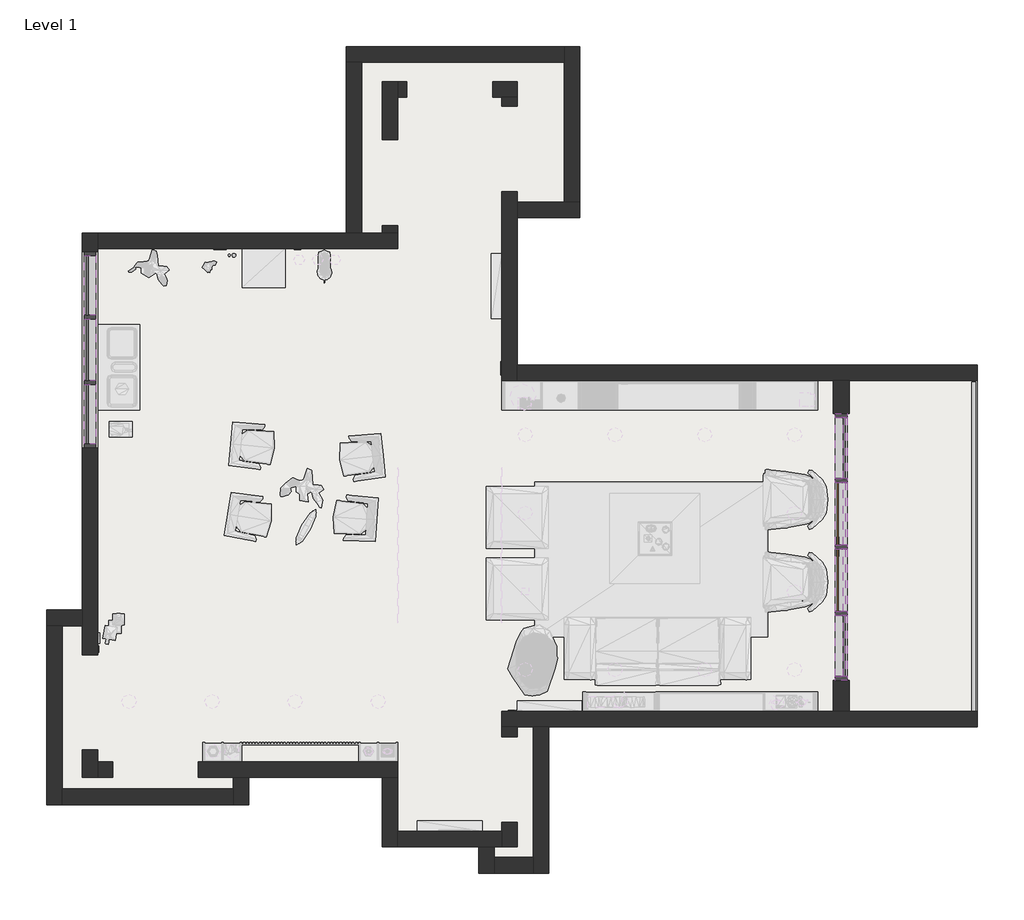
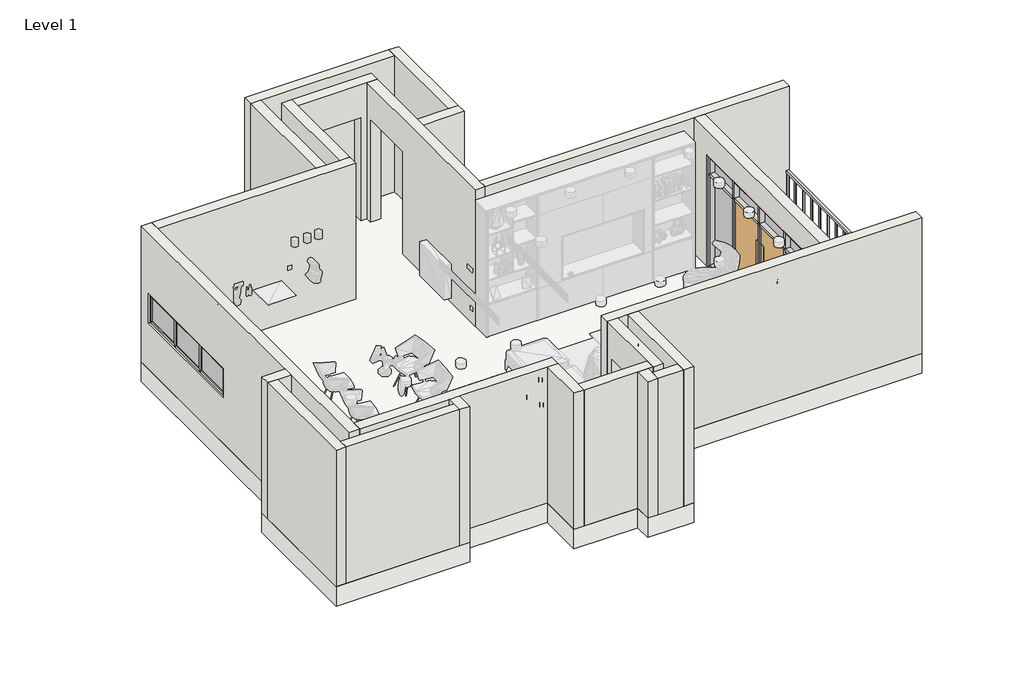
# One storey, part 1 of 2: 32 members, 23 walls, 9 plates, 2 doors, 1 railing, 1 slab.
"""IFC4 building model written with IfcOpenShell, lengths in millimetres."""

from ifc_helpers import new_model, si_unit, frame, origin, origin_with_axes, place, context, project, spatial, polyline, outline, extrude, faceted_brep, transform, mapped, element, save
from components import sgl_glass_3_sgl_glass_3_026d372b, sgl_glass_3_sgl_glass_3_7d3c2ecc, rectangular_mullion_50_x_150mm_68b3818a, rectangular_mullion_50_x_150mm_64d38db8, rectangular_mullion_50_x_150mm_0782772d, rectangular_mullion_50_x_150mm_636d1770, rectangular_mullion_50_x_150mm_7622f7aa, rectangular_mullion_50_x_150mm_658aca72, rectangular_mullion_50_x_150mm_52b77c49, rectangular_mullion_50_x_150mm_f1d7dc28, rectangular_mullion_50_x_150mm_77adab58, rectangular_mullion_50_x_150mm_08303c98, rectangular_mullion_50_x_150mm_9364a57c, rectangular_mullion_50_x_150mm_e11a3e7b, system_panel_glazed_0ca214f6, system_panel_glazed_e800b1ad, system_panel_glazed_3b1a006d, system_panel_glazed_6420dd34, system_panel_glazed_474c7c4c

model = new_model("IFC4")

# Units and contexts
model_context = context("Model", 3, world=origin())
ifc_project = project(units=[si_unit("LENGTHUNIT", "METRE", prefix="MILLI")], contexts=[model_context])

# Site, building, storey
site = spatial("IfcSite", under=ifc_project)
building = spatial("IfcBuilding", under=site)
storey = spatial("IfcBuildingStorey", under=building, Name="Level 1", Elevation=0.0)

# Doors
placement = place(None, origin())
sgl_glass_3_sgl_glass_3_shape = sgl_glass_3_sgl_glass_3_026d372b(model_context)
element("IfcDoor", 1, ObjectType="Sgl Glass (3) : Sgl Glass (3)", at=placement, inside=storey, context=model_context, shape_type="MappedRepresentation", body=[
    mapped(sgl_glass_3_sgl_glass_3_shape, transform((278.5468164, -160.0345242, 50.0), x_axis=(0.0, 1.0, 0.0), y_axis=(-1.0, 0.0, 0.0), z_axis=(0.0, 0.0, 1.0))),
])
sgl_glass_3_sgl_glass_3_2_shape = sgl_glass_3_sgl_glass_3_7d3c2ecc(model_context)
element("IfcDoor", 2, ObjectType="Sgl Glass (3) : Sgl Glass (3)", at=placement, inside=storey, context=model_context, shape_type="MappedRepresentation", body=[
    mapped(sgl_glass_3_sgl_glass_3_2_shape, transform((278.5468164, -1016.284524, 50.0), x_axis=(0.0, -1.0, 0.0), y_axis=(1.0, 0.0, 0.0), z_axis=(0.0, 0.0, 1.0))),
])

# Members
rectangular_mullion_50_x_150mm_shape = rectangular_mullion_50_x_150mm_68b3818a(model_context)
element("IfcMember", 3, ObjectType="Rectangular Mullion : 50 x 150mm", at=placement, inside=storey, context=model_context, shape_type="MappedRepresentation", body=[
    mapped(rectangular_mullion_50_x_150mm_shape, transform((-9371.4531836, 1526.0071427, 950.0), x_axis=(0.0, 1.0, 0.0), y_axis=(1.0, 0.0, 0.0), z_axis=(0.0, 0.0, -1.0))),
])
element("IfcMember", 4, ObjectType="Rectangular Mullion : 50 x 150mm", at=placement, inside=storey, context=model_context, shape_type="MappedRepresentation", body=[
    mapped(rectangular_mullion_50_x_150mm_shape, transform((-9371.4531836, 2367.6738091, 950.0), x_axis=(0.0, 1.0, 0.0), y_axis=(1.0, 0.0, 0.0), z_axis=(0.0, 0.0, -1.0))),
])
rectangular_mullion_50_x_150mm_2_shape = rectangular_mullion_50_x_150mm_64d38db8(model_context)
element("IfcMember", 5, ObjectType="Rectangular Mullion : 50 x 150mm", at=placement, inside=storey, context=model_context, shape_type="MappedRepresentation", body=[
    mapped(rectangular_mullion_50_x_150mm_2_shape, transform((-9371.4531836, 3209.3404759, 950.0), x_axis=(0.0, 1.0, 0.0), y_axis=(1.0, 0.0, 0.0), z_axis=(0.0, 0.0, -1.0))),
])
element("IfcMember", 6, ObjectType="Rectangular Mullion : 50 x 150mm", at=placement, inside=storey, context=model_context, shape_type="MappedRepresentation", body=[
    mapped(rectangular_mullion_50_x_150mm_2_shape, transform((-9371.4531836, 684.3404759, 1550.0), x_axis=(0.0, -1.0, 0.0), y_axis=(1.0, 0.0, 0.0), z_axis=(0.0, 0.0, 1.0))),
])
rectangular_mullion_50_x_150mm_3_shape = rectangular_mullion_50_x_150mm_0782772d(model_context)
element("IfcMember", 7, ObjectType="Rectangular Mullion : 50 x 150mm", at=placement, inside=storey, context=model_context, shape_type="MappedRepresentation", body=[
    mapped(rectangular_mullion_50_x_150mm_3_shape, transform((-9371.4531836, 734.3404759, 950.0), x_axis=(0.0, 0.0, -1.0), y_axis=(1.0, 0.0, 0.0), z_axis=(0.0, -1.0, 0.0))),
])
element("IfcMember", 8, ObjectType="Rectangular Mullion : 50 x 150mm", at=placement, inside=storey, context=model_context, shape_type="MappedRepresentation", body=[
    mapped(rectangular_mullion_50_x_150mm_3_shape, transform((-9371.4531836, 2392.6738091, 950.0), x_axis=(0.0, 0.0, -1.0), y_axis=(1.0, 0.0, 0.0), z_axis=(0.0, -1.0, 0.0))),
])
element("IfcMember", 9, ObjectType="Rectangular Mullion : 50 x 150mm", at=placement, inside=storey, context=model_context, shape_type="MappedRepresentation", body=[
    mapped(rectangular_mullion_50_x_150mm_3_shape, transform((-9371.4531836, 3159.3404759, 1550.0), x_axis=(0.0, 0.0, 1.0), y_axis=(1.0, 0.0, 0.0), z_axis=(0.0, 1.0, 0.0))),
])
element("IfcMember", 10, ObjectType="Rectangular Mullion : 50 x 150mm", at=placement, inside=storey, context=model_context, shape_type="MappedRepresentation", body=[
    mapped(rectangular_mullion_50_x_150mm_3_shape, transform((-9371.4531836, 1501.0071427, 1550.0), x_axis=(0.0, 0.0, 1.0), y_axis=(1.0, 0.0, 0.0), z_axis=(0.0, 1.0, 0.0))),
])
rectangular_mullion_50_x_150mm_4_shape = rectangular_mullion_50_x_150mm_636d1770(model_context)
element("IfcMember", 11, ObjectType="Rectangular Mullion : 50 x 150mm", at=placement, inside=storey, context=model_context, shape_type="MappedRepresentation", body=[
    mapped(rectangular_mullion_50_x_150mm_4_shape, transform((-9371.4531836, 1551.0071427, 950.0), x_axis=(0.0, 0.0, -1.0), y_axis=(1.0, 0.0, 0.0), z_axis=(0.0, -1.0, 0.0))),
])
element("IfcMember", 12, ObjectType="Rectangular Mullion : 50 x 150mm", at=placement, inside=storey, context=model_context, shape_type="MappedRepresentation", body=[
    mapped(rectangular_mullion_50_x_150mm_4_shape, transform((-9371.4531836, 2342.6738091, 1550.0), x_axis=(0.0, 0.0, 1.0), y_axis=(1.0, 0.0, 0.0), z_axis=(0.0, 1.0, 0.0))),
])
rectangular_mullion_50_x_150mm_5_shape = rectangular_mullion_50_x_150mm_7622f7aa(model_context)
element("IfcMember", 13, ObjectType="Rectangular Mullion : 50 x 150mm", at=placement, inside=storey, context=model_context, shape_type="MappedRepresentation", body=[
    mapped(rectangular_mullion_50_x_150mm_5_shape, transform((278.5468164, 1074.3404759, 0.0), x_axis=(0.0, 0.0, -1.0), y_axis=(-1.0, 0.0, 0.0), z_axis=(0.0, 1.0, 0.0))),
])
element("IfcMember", 14, ObjectType="Rectangular Mullion : 50 x 150mm", at=placement, inside=storey, context=model_context, shape_type="MappedRepresentation", body=[
    mapped(rectangular_mullion_50_x_150mm_5_shape, transform((278.5468164, -1469.409524, 0.0), x_axis=(0.0, 0.0, -1.0), y_axis=(-1.0, 0.0, 0.0), z_axis=(0.0, 1.0, 0.0))),
])
rectangular_mullion_50_x_150mm_6_shape = rectangular_mullion_50_x_150mm_658aca72(model_context)
element("IfcMember", 15, ObjectType="Rectangular Mullion : 50 x 150mm", at=placement, inside=storey, context=model_context, shape_type="MappedRepresentation", body=[
    mapped(rectangular_mullion_50_x_150mm_6_shape, transform((278.5468164, 243.0904757, 0.0), x_axis=(0.0, 0.0, -1.0), y_axis=(-1.0, 0.0, 0.0), z_axis=(0.0, 1.0, 0.0))),
])
element("IfcMember", 16, ObjectType="Rectangular Mullion : 50 x 150mm", at=placement, inside=storey, context=model_context, shape_type="MappedRepresentation", body=[
    mapped(rectangular_mullion_50_x_150mm_6_shape, transform((278.5468164, -613.1595241, 0.0), x_axis=(0.0, 0.0, -1.0), y_axis=(-1.0, 0.0, 0.0), z_axis=(0.0, 1.0, 0.0))),
])
element("IfcMember", 17, ObjectType="Rectangular Mullion : 50 x 150mm", at=placement, inside=storey, context=model_context, shape_type="MappedRepresentation", body=[
    mapped(rectangular_mullion_50_x_150mm_5_shape, transform((278.5468164, -2250.6595241, 2300.0), x_axis=(0.0, 0.0, 1.0), y_axis=(-1.0, 0.0, 0.0), z_axis=(0.0, -1.0, 0.0))),
])
element("IfcMember", 18, ObjectType="Rectangular Mullion : 50 x 150mm", at=placement, inside=storey, context=model_context, shape_type="MappedRepresentation", body=[
    mapped(rectangular_mullion_50_x_150mm_5_shape, transform((278.5468164, 293.0904757, 2300.0), x_axis=(0.0, 0.0, 1.0), y_axis=(-1.0, 0.0, 0.0), z_axis=(0.0, -1.0, 0.0))),
])
rectangular_mullion_50_x_150mm_7_shape = rectangular_mullion_50_x_150mm_52b77c49(model_context)
element("IfcMember", 19, ObjectType="Rectangular Mullion : 50 x 150mm", at=placement, inside=storey, context=model_context, shape_type="MappedRepresentation", body=[
    mapped(rectangular_mullion_50_x_150mm_7_shape, transform((278.5468164, 293.0904757, 1900.0), x_axis=(0.0, 0.0, 1.0), y_axis=(-1.0, 0.0, 0.0), z_axis=(0.0, -1.0, 0.0))),
])
element("IfcMember", 20, ObjectType="Rectangular Mullion : 50 x 150mm", at=placement, inside=storey, context=model_context, shape_type="MappedRepresentation", body=[
    mapped(rectangular_mullion_50_x_150mm_7_shape, transform((278.5468164, -2250.6595241, 1900.0), x_axis=(0.0, 0.0, 1.0), y_axis=(-1.0, 0.0, 0.0), z_axis=(0.0, -1.0, 0.0))),
])
rectangular_mullion_50_x_150mm_8_shape = rectangular_mullion_50_x_150mm_f1d7dc28(model_context)
element("IfcMember", 21, ObjectType="Rectangular Mullion : 50 x 150mm", at=placement, inside=storey, context=model_context, shape_type="MappedRepresentation", body=[
    mapped(rectangular_mullion_50_x_150mm_8_shape, transform((278.5468164, -563.1595241, 1900.0), x_axis=(0.0, 0.0, 1.0), y_axis=(-1.0, 0.0, 0.0), z_axis=(0.0, -1.0, 0.0))),
])
element("IfcMember", 22, ObjectType="Rectangular Mullion : 50 x 150mm", at=placement, inside=storey, context=model_context, shape_type="MappedRepresentation", body=[
    mapped(rectangular_mullion_50_x_150mm_8_shape, transform((278.5468164, -1419.409524, 1900.0), x_axis=(0.0, 0.0, 1.0), y_axis=(-1.0, 0.0, 0.0), z_axis=(0.0, -1.0, 0.0))),
])
element("IfcMember", 23, ObjectType="Rectangular Mullion : 50 x 150mm", at=placement, inside=storey, context=model_context, shape_type="MappedRepresentation", body=[
    mapped(rectangular_mullion_50_x_150mm_6_shape, transform((278.5468164, -563.1595241, 2300.0), x_axis=(0.0, 0.0, 1.0), y_axis=(-1.0, 0.0, 0.0), z_axis=(0.0, -1.0, 0.0))),
])
element("IfcMember", 24, ObjectType="Rectangular Mullion : 50 x 150mm", at=placement, inside=storey, context=model_context, shape_type="MappedRepresentation", body=[
    mapped(rectangular_mullion_50_x_150mm_6_shape, transform((278.5468164, -1419.409524, 2300.0), x_axis=(0.0, 0.0, 1.0), y_axis=(-1.0, 0.0, 0.0), z_axis=(0.0, -1.0, 0.0))),
])
rectangular_mullion_50_x_150mm_9_shape = rectangular_mullion_50_x_150mm_77adab58(model_context)
element("IfcMember", 25, ObjectType="Rectangular Mullion : 50 x 150mm", at=placement, inside=storey, context=model_context, shape_type="MappedRepresentation", body=[
    mapped(rectangular_mullion_50_x_150mm_9_shape, transform((278.5468164, 268.0904757, 0.0), x_axis=(0.0, -1.0, 0.0), y_axis=(-1.0, 0.0, 0.0), z_axis=(0.0, 0.0, -1.0))),
])
element("IfcMember", 26, ObjectType="Rectangular Mullion : 50 x 150mm", at=placement, inside=storey, context=model_context, shape_type="MappedRepresentation", body=[
    mapped(rectangular_mullion_50_x_150mm_9_shape, transform((278.5468164, -588.1595241, 0.0), x_axis=(0.0, -1.0, 0.0), y_axis=(-1.0, 0.0, 0.0), z_axis=(0.0, 0.0, -1.0))),
])
element("IfcMember", 27, ObjectType="Rectangular Mullion : 50 x 150mm", at=placement, inside=storey, context=model_context, shape_type="MappedRepresentation", body=[
    mapped(rectangular_mullion_50_x_150mm_9_shape, transform((278.5468164, -1444.409524, 0.0), x_axis=(0.0, -1.0, 0.0), y_axis=(-1.0, 0.0, 0.0), z_axis=(0.0, 0.0, -1.0))),
])
rectangular_mullion_50_x_150mm_10_shape = rectangular_mullion_50_x_150mm_08303c98(model_context)
element("IfcMember", 28, ObjectType="Rectangular Mullion : 50 x 150mm", at=placement, inside=storey, context=model_context, shape_type="MappedRepresentation", body=[
    mapped(rectangular_mullion_50_x_150mm_10_shape, transform((278.5468164, 268.0904757, 1900.0), x_axis=(0.0, -1.0, 0.0), y_axis=(-1.0, 0.0, 0.0), z_axis=(0.0, 0.0, -1.0))),
])
element("IfcMember", 29, ObjectType="Rectangular Mullion : 50 x 150mm", at=placement, inside=storey, context=model_context, shape_type="MappedRepresentation", body=[
    mapped(rectangular_mullion_50_x_150mm_10_shape, transform((278.5468164, -588.1595241, 1900.0), x_axis=(0.0, -1.0, 0.0), y_axis=(-1.0, 0.0, 0.0), z_axis=(0.0, 0.0, -1.0))),
])
element("IfcMember", 30, ObjectType="Rectangular Mullion : 50 x 150mm", at=placement, inside=storey, context=model_context, shape_type="MappedRepresentation", body=[
    mapped(rectangular_mullion_50_x_150mm_10_shape, transform((278.5468164, -1444.409524, 1900.0), x_axis=(0.0, -1.0, 0.0), y_axis=(-1.0, 0.0, 0.0), z_axis=(0.0, 0.0, -1.0))),
])
rectangular_mullion_50_x_150mm_11_shape = rectangular_mullion_50_x_150mm_9364a57c(model_context)
element("IfcMember", 31, ObjectType="Rectangular Mullion : 50 x 150mm", at=placement, inside=storey, context=model_context, shape_type="MappedRepresentation", body=[
    mapped(rectangular_mullion_50_x_150mm_11_shape, transform((278.5468164, -2300.6595241, 0.0), x_axis=(0.0, -1.0, 0.0), y_axis=(-1.0, 0.0, 0.0), z_axis=(0.0, 0.0, -1.0))),
])
rectangular_mullion_50_x_150mm_12_shape = rectangular_mullion_50_x_150mm_e11a3e7b(model_context)
element("IfcMember", 32, ObjectType="Rectangular Mullion : 50 x 150mm", at=placement, inside=storey, context=model_context, shape_type="MappedRepresentation", body=[
    mapped(rectangular_mullion_50_x_150mm_12_shape, transform((278.5468164, 1124.3404759, 2300.0), x_axis=(0.0, 1.0, 0.0), y_axis=(-1.0, 0.0, 0.0), z_axis=(0.0, 0.0, 1.0))),
])
element("IfcMember", 33, ObjectType="Rectangular Mullion : 50 x 150mm", at=placement, inside=storey, context=model_context, shape_type="MappedRepresentation", body=[
    mapped(rectangular_mullion_50_x_150mm_12_shape, transform((278.5468164, -2300.6595241, 1900.0), x_axis=(0.0, -1.0, 0.0), y_axis=(-1.0, 0.0, 0.0), z_axis=(0.0, 0.0, -1.0))),
])
element("IfcMember", 34, ObjectType="Rectangular Mullion : 50 x 150mm", at=placement, inside=storey, context=model_context, shape_type="MappedRepresentation", body=[
    mapped(rectangular_mullion_50_x_150mm_11_shape, transform((278.5468164, 1124.3404759, 1900.0), x_axis=(0.0, 1.0, 0.0), y_axis=(-1.0, 0.0, 0.0), z_axis=(0.0, 0.0, 1.0))),
])

# Plates
system_panel_glazed_shape = system_panel_glazed_0ca214f6(model_context)
element("IfcPlate", 35, ObjectType="System Panel : Glazed", at=placement, inside=storey, context=model_context, shape_type="MappedRepresentation", body=[
    mapped(system_panel_glazed_shape, transform((-9371.4531836, 1117.6738093, 1000.0), x_axis=(0.0, 1.0, 0.0), y_axis=(-1.0, 0.0, 0.0), z_axis=(0.0, 0.0, 1.0))),
])
element("IfcPlate", 36, ObjectType="System Panel : Glazed", at=placement, inside=storey, context=model_context, shape_type="MappedRepresentation", body=[
    mapped(system_panel_glazed_shape, transform((-9371.4531836, 2776.0071425, 1000.0), x_axis=(0.0, 1.0, 0.0), y_axis=(-1.0, 0.0, 0.0), z_axis=(0.0, 0.0, 1.0))),
])
system_panel_glazed_2_shape = system_panel_glazed_e800b1ad(model_context)
element("IfcPlate", 37, ObjectType="System Panel : Glazed", at=placement, inside=storey, context=model_context, shape_type="MappedRepresentation", body=[
    mapped(system_panel_glazed_2_shape, transform((-9371.4531836, 1946.8404759, 1000.0), x_axis=(0.0, 1.0, 0.0), y_axis=(-1.0, 0.0, 0.0), z_axis=(0.0, 0.0, 1.0))),
])
system_panel_glazed_3_shape = system_panel_glazed_3b1a006d(model_context)
element("IfcPlate", 38, ObjectType="System Panel : Glazed", at=placement, inside=storey, context=model_context, shape_type="MappedRepresentation", body=[
    mapped(system_panel_glazed_3_shape, transform((278.5468164, 683.7154758, 50.0), x_axis=(0.0, -1.0, 0.0), y_axis=(1.0, 0.0, 0.0), z_axis=(0.0, 0.0, 1.0))),
])
element("IfcPlate", 39, ObjectType="System Panel : Glazed", at=placement, inside=storey, context=model_context, shape_type="MappedRepresentation", body=[
    mapped(system_panel_glazed_3_shape, transform((278.5468164, -1860.034524, 50.0), x_axis=(0.0, -1.0, 0.0), y_axis=(1.0, 0.0, 0.0), z_axis=(0.0, 0.0, 1.0))),
])
system_panel_glazed_4_shape = system_panel_glazed_6420dd34(model_context)
element("IfcPlate", 40, ObjectType="System Panel : Glazed", at=placement, inside=storey, context=model_context, shape_type="MappedRepresentation", body=[
    mapped(system_panel_glazed_4_shape, transform((278.5468164, 683.7154758, 1925.0), x_axis=(0.0, -1.0, 0.0), y_axis=(1.0, 0.0, 0.0), z_axis=(0.0, 0.0, 1.0))),
])
element("IfcPlate", 41, ObjectType="System Panel : Glazed", at=placement, inside=storey, context=model_context, shape_type="MappedRepresentation", body=[
    mapped(system_panel_glazed_4_shape, transform((278.5468164, -1860.034524, 1925.0), x_axis=(0.0, -1.0, 0.0), y_axis=(1.0, 0.0, 0.0), z_axis=(0.0, 0.0, 1.0))),
])
system_panel_glazed_5_shape = system_panel_glazed_474c7c4c(model_context)
element("IfcPlate", 42, ObjectType="System Panel : Glazed", at=placement, inside=storey, context=model_context, shape_type="MappedRepresentation", body=[
    mapped(system_panel_glazed_5_shape, transform((278.5468164, -160.0345242, 1925.0), x_axis=(0.0, -1.0, 0.0), y_axis=(1.0, 0.0, 0.0), z_axis=(0.0, 0.0, 1.0))),
])
element("IfcPlate", 43, ObjectType="System Panel : Glazed", at=placement, inside=storey, context=model_context, shape_type="MappedRepresentation", body=[
    mapped(system_panel_glazed_5_shape, transform((278.5468164, -1016.284524, 1925.0), x_axis=(0.0, -1.0, 0.0), y_axis=(1.0, 0.0, 0.0), z_axis=(0.0, 0.0, 1.0))),
])

# Railing
element("IfcRailing", 44, ObjectType="1100mm", at=placement, inside=storey, context=model_context, shape_type="SweptSolid", body=[
    extrude(outline(polyline([(1953.5468164, 1534.3404759), (2003.5468164, 1534.3404759), (2003.5468164, -2715.6595241), (1953.5468164, -2715.6595241), (1953.5468164, 1534.3404759)])), frame((0.0, 0.0, 1050.0), z_axis=(0.0, 0.0, 1.0), x_axis=(1.0, 0.0, 0.0)), (0.0, 0.0, 1.0), 50.0),
    extrude(outline(polyline([(1966.0468164, -2578.1595241), (1991.0468164, -2578.1595241), (1991.0468164, -2603.1595241), (1966.0468164, -2603.1595241), (1966.0468164, -2578.1595241)])), origin_with_axes(), (0.0, 0.0, 1.0), 1050.0),
    extrude(outline(polyline([(1966.0468164, -2303.1595241), (1991.0468164, -2303.1595241), (1991.0468164, -2328.1595241), (1966.0468164, -2328.1595241), (1966.0468164, -2303.1595241)])), origin_with_axes(), (0.0, 0.0, 1.0), 1050.0),
    extrude(outline(polyline([(1966.0468164, -2028.1595241), (1991.0468164, -2028.1595241), (1991.0468164, -2053.1595241), (1966.0468164, -2053.1595241), (1966.0468164, -2028.1595241)])), origin_with_axes(), (0.0, 0.0, 1.0), 1050.0),
    extrude(outline(polyline([(1966.0468164, -1753.1595241), (1991.0468164, -1753.1595241), (1991.0468164, -1778.1595241), (1966.0468164, -1778.1595241), (1966.0468164, -1753.1595241)])), origin_with_axes(), (0.0, 0.0, 1.0), 1050.0),
    extrude(outline(polyline([(1966.0468164, -1478.1595241), (1991.0468164, -1478.1595241), (1991.0468164, -1503.1595241), (1966.0468164, -1503.1595241), (1966.0468164, -1478.1595241)])), origin_with_axes(), (0.0, 0.0, 1.0), 1050.0),
    extrude(outline(polyline([(1966.0468164, -1203.1595241), (1991.0468164, -1203.1595241), (1991.0468164, -1228.1595241), (1966.0468164, -1228.1595241), (1966.0468164, -1203.1595241)])), origin_with_axes(), (0.0, 0.0, 1.0), 1050.0),
    extrude(outline(polyline([(1966.0468164, -928.1595241), (1991.0468164, -928.1595241), (1991.0468164, -953.1595241), (1966.0468164, -953.1595241), (1966.0468164, -928.1595241)])), origin_with_axes(), (0.0, 0.0, 1.0), 1050.0),
    extrude(outline(polyline([(1966.0468164, -653.1595241), (1991.0468164, -653.1595241), (1991.0468164, -678.1595241), (1966.0468164, -678.1595241), (1966.0468164, -653.1595241)])), origin_with_axes(), (0.0, 0.0, 1.0), 1050.0),
    extrude(outline(polyline([(1966.0468164, -378.1595241), (1991.0468164, -378.1595241), (1991.0468164, -403.1595241), (1966.0468164, -403.1595241), (1966.0468164, -378.1595241)])), origin_with_axes(), (0.0, 0.0, 1.0), 1050.0),
    extrude(outline(polyline([(1966.0468164, -103.1595241), (1991.0468164, -103.1595241), (1991.0468164, -128.1595241), (1966.0468164, -128.1595241), (1966.0468164, -103.1595241)])), origin_with_axes(), (0.0, 0.0, 1.0), 1050.0),
    extrude(outline(polyline([(1966.0468164, 171.8404759), (1991.0468164, 171.8404759), (1991.0468164, 146.8404759), (1966.0468164, 146.8404759), (1966.0468164, 171.8404759)])), origin_with_axes(), (0.0, 0.0, 1.0), 1050.0),
    extrude(outline(polyline([(1966.0468164, 446.8404759), (1991.0468164, 446.8404759), (1991.0468164, 421.8404759), (1966.0468164, 421.8404759), (1966.0468164, 446.8404759)])), origin_with_axes(), (0.0, 0.0, 1.0), 1050.0),
    extrude(outline(polyline([(1966.0468164, 721.8404759), (1991.0468164, 721.8404759), (1991.0468164, 696.8404759), (1966.0468164, 696.8404759), (1966.0468164, 721.8404759)])), origin_with_axes(), (0.0, 0.0, 1.0), 1050.0),
    extrude(outline(polyline([(1966.0468164, 996.8404759), (1991.0468164, 996.8404759), (1991.0468164, 971.8404759), (1966.0468164, 971.8404759), (1966.0468164, 996.8404759)])), origin_with_axes(), (0.0, 0.0, 1.0), 1050.0),
    extrude(outline(polyline([(1966.0468164, 1271.8404759), (1991.0468164, 1271.8404759), (1991.0468164, 1246.8404759), (1966.0468164, 1246.8404759), (1966.0468164, 1271.8404759)])), origin_with_axes(), (0.0, 0.0, 1.0), 1050.0),
    extrude(outline(polyline([(1966.0468164, -2690.6595241), (1991.0468164, -2690.6595241), (1991.0468164, -2715.6595241), (1966.0468164, -2715.6595241), (1966.0468164, -2690.6595241)])), origin_with_axes(), (0.0, 0.0, 1.0), 1050.0),
    extrude(outline(polyline([(1966.0468164, 1534.3404759), (1991.0468164, 1534.3404759), (1991.0468164, 1509.3404759), (1966.0468164, 1509.3404759), (1966.0468164, 1534.3404759)])), origin_with_axes(), (0.0, 0.0, 1.0), 1050.0),
])

# Slab
element("IfcSlab", 45, ObjectType="Generic 400mm", at=placement, inside=storey, context=model_context, shape_type="SweptSolid", body=[
    extrude(outline(polyline([(2028.5468164, -2900.6595241), (-3481.4531836, -2900.6595241), (-3481.4531836, -4780.6595241), (-4381.4531836, -4780.6595241), (-4381.4531836, -4445.6595241), (-5621.4531836, -4445.6595241), (-5621.4531836, -3550.6595241), (-7331.4531121, -3550.6595241), (-7331.4531121, -3900.6595241), (-9931.4531121, -3900.6595241), (-9931.4531121, -1400.6595241), (-9471.4531836, -1400.6595241), (-9471.4531836, 3444.3404759), (-6081.4531836, 3444.3404759), (-6081.4531836, 5844.3404759), (-3081.4531836, 5844.3404759), (-3081.4531836, 3644.3404759), (-3881.4531836, 3644.3404759), (-3881.4531836, 1749.3404759), (2028.5468164, 1749.3404759), (2028.5468164, -2900.6595241)])), frame((0.0, 0.0, -400.0), z_axis=(0.0, 0.0, 1.0), x_axis=(1.0, 0.0, 0.0)), (0.0, 0.0, 1.0), 400.0),
])

# Walls
element("IfcWall", 46, ObjectType="Generic - 200mm", at=placement, inside=storey, context=model_context, shape_type="Brep", body=[
    faceted_brep([(-9271.4531836, 3444.3404759, 2800.0), (-9271.4531836, 3244.3404759, 2800.0), (-9271.4531836, -3350.6595241, 2800.0), (-9271.4531836, -3550.6595241, 2800.0), (-9271.4531836, -3550.6595241, 0.0), (-9271.4531836, -3350.6595241, 0.0), (-9271.4531836, -3196.6595241, 0.0), (-9271.4531836, -3196.6595241, 2200.0), (-9271.4531836, -1974.6595241, 2200.0), (-9271.4531836, -1974.6595241, 0.0), (-9271.4531836, 3244.3404759, 0.0), (-9271.4531836, 3444.3404759, 0.0), (-9271.4531836, 684.3404759, 950.0), (-9271.4531836, 684.3404759, 1550.0), (-9271.4531836, 3209.3404759, 1550.0), (-9271.4531836, 3209.3404759, 950.0), (-9471.4531836, -3196.6595241, 0.0), (-9471.4531836, -3550.6595241, 0.0), (-9471.4531836, -3550.6595241, 2800.0), (-9471.4531836, -1600.6595241, 2800.0), (-9471.4531836, -1400.6595241, 2800.0), (-9471.4531836, 3444.3404759, 2800.0), (-9471.4531836, 3444.3404759, 0.0), (-9471.4531836, -1400.6595241, 0.0), (-9471.4531836, -1600.6595241, 0.0), (-9471.4531836, -1974.6595241, 0.0), (-9471.4531836, -1974.6595241, 2200.0), (-9471.4531836, -3196.6595241, 2200.0), (-9471.4531836, 684.3404759, 1550.0), (-9471.4531836, 684.3404759, 950.0), (-9471.4531836, 3209.3404759, 950.0), (-9471.4531836, 3209.3404759, 1550.0)], [[[0, 1, 2, 3, 4, 5, 6, 7, 8, 9, 10, 11], [12, 13, 14, 15]], [[16, 17, 18, 19, 20, 21, 22, 23, 24, 25, 26, 27], [28, 29, 30, 31]], [[6, 5, 4, 17, 16]], [[11, 10, 9, 25, 24, 23, 22]], [[12, 29, 28, 13]], [[13, 28, 31, 14]], [[14, 31, 30, 15]], [[29, 12, 15, 30]], [[3, 2, 1, 0, 21, 20, 19, 18]], [[27, 7, 6, 16]], [[7, 27, 26, 8]], [[8, 26, 25, 9]], [[4, 3, 18, 17]], [[0, 11, 22, 21]]]),
])
element("IfcWall", 47, ObjectType="Generic - 200mm", at=placement, inside=storey, context=model_context, shape_type="Brep", body=[
    faceted_brep([(-5421.4531836, 3444.3404759, 0.0), (-5621.4531836, 3444.3404759, 0.0), (-5881.4531836, 3444.3404759, 0.0), (-6081.4531836, 3444.3404759, 0.0), (-9271.4531836, 3444.3404759, 0.0), (-9271.4531836, 3444.3404759, 2800.0), (-6081.4531836, 3444.3404759, 2800.0), (-5881.4531836, 3444.3404759, 2800.0), (-5621.4531836, 3444.3404759, 2800.0), (-5421.4531836, 3444.3404759, 2800.0), (-5421.4531836, 3444.3404759, 100.0), (-5421.4531836, 3244.3404759, 2800.0), (-9271.4531836, 3244.3404759, 2800.0), (-9271.4531836, 3244.3404759, 100.0), (-9271.4531836, 3244.3404759, 0.0), (-9261.4531836, 3244.3404759, 0.0), (-5421.4531836, 3244.3404759, 0.0), (-5421.4531836, 3244.3404759, 100.0)], [[[0, 1, 2, 3, 4, 5, 6, 7, 8, 9, 10]], [[11, 12, 13, 14, 15, 16, 17]], [[4, 3, 2, 1, 0, 16, 15, 14]], [[9, 11, 17, 16, 0, 10]], [[5, 4, 14, 13, 12]], [[12, 11, 9, 8, 7, 6, 5]]]),
])
element("IfcWall", 48, ObjectType="Generic - 200mm", at=placement, inside=storey, context=model_context, shape_type="Brep", body=[
    faceted_brep([(-5621.4531836, 3444.3404759, 0.0), (-5621.4531836, 3444.3404759, 2800.0), (-5621.4531836, 5394.3404759, 2800.0), (-5621.4531836, 5394.3404759, 0.0), (-5621.4531836, 4644.3404759, 0.0), (-5621.4531836, 4644.3404759, 2120.0), (-5621.4531836, 3544.3404759, 2120.0), (-5621.4531836, 3544.3404759, 0.0), (-5421.4531836, 3444.3404759, 2800.0), (-5421.4531836, 3444.3404759, 0.0), (-5421.4531836, 3544.3404759, 0.0), (-5421.4531836, 3544.3404759, 2120.0), (-5421.4531836, 4644.3404759, 2120.0), (-5421.4531836, 4644.3404759, 0.0), (-5421.4531836, 5194.3404759, 0.0), (-5421.4531836, 5394.3404759, 0.0), (-5421.4531836, 5394.3404759, 2800.0), (-5421.4531836, 5194.3404759, 2800.0)], [[[0, 1, 2, 3, 4, 5, 6, 7]], [[8, 9, 10, 11, 12, 13, 14, 15, 16, 17]], [[9, 0, 7, 10]], [[3, 15, 14, 13, 4]], [[1, 0, 9, 8]], [[2, 1, 8, 17, 16]], [[12, 5, 4, 13]], [[5, 12, 11, 6]], [[6, 11, 10, 7]], [[3, 2, 16, 15]]]),
])
element("IfcWall", 49, ObjectType="Generic - 200mm", at=placement, inside=storey, context=model_context, shape_type="Brep", body=[
    faceted_brep([(-3881.4531836, 5194.3404759, 2800.0), (-4081.4531836, 5194.3404759, 2800.0), (-5421.4531836, 5194.3404759, 2800.0), (-5421.4531836, 5194.3404759, 0.0), (-5301.4531836, 5194.3404759, 0.0), (-5301.4531836, 5194.3404759, 2120.0), (-4201.4531836, 5194.3404759, 2120.0), (-4201.4531836, 5194.3404759, 0.0), (-4081.4531836, 5194.3404759, 0.0), (-3881.4531836, 5194.3404759, 0.0), (-5421.4531836, 5394.3404759, 2800.0), (-3881.4531836, 5394.3404759, 2800.0), (-3881.4531836, 5394.3404759, 0.0), (-4201.4531836, 5394.3404759, 0.0), (-4201.4531836, 5394.3404759, 2120.0), (-5301.4531836, 5394.3404759, 2120.0), (-5301.4531836, 5394.3404759, 0.0), (-5421.4531836, 5394.3404759, 0.0)], [[[0, 1, 2, 3, 4, 5, 6, 7, 8, 9]], [[10, 11, 12, 13, 14, 15, 16, 17]], [[3, 17, 16, 4]], [[12, 9, 8, 7, 13]], [[2, 1, 0, 11, 10]], [[15, 5, 4, 16]], [[5, 15, 14, 6]], [[6, 14, 13, 7]], [[3, 2, 10, 17]], [[0, 9, 12, 11]]]),
])
element("IfcWall", 50, ObjectType="Generic - 200mm", at=placement, inside=storey, context=model_context, shape_type="Brep", body=[
    faceted_brep([(-4081.4531836, 1549.3404759, 0.0), (-4081.4531836, 1549.3404759, 2800.0), (-4081.4531836, 5194.3404759, 2800.0), (-4081.4531836, 5194.3404759, 0.0), (-4081.4531836, 5079.3404759, 0.0), (-4081.4531836, 5079.3404759, 2120.0), (-4081.4531836, 3979.3404759, 2120.0), (-4081.4531836, 3979.3404759, 0.0), (-3881.4531836, 1549.3404759, 2800.0), (-3881.4531836, 1549.3404759, 0.0), (-3881.4531836, 1749.3404759, 0.0), (-3881.4531836, 3644.3404759, 0.0), (-3881.4531836, 3844.3404759, 0.0), (-3881.4531836, 3979.3404759, 0.0), (-3881.4531836, 3979.3404759, 2120.0), (-3881.4531836, 5079.3404759, 2120.0), (-3881.4531836, 5079.3404759, 0.0), (-3881.4531836, 5194.3404759, 0.0), (-3881.4531836, 5194.3404759, 2800.0), (-3881.4531836, 3844.3404759, 2800.0), (-3881.4531836, 3644.3404759, 2800.0), (-3881.4531836, 1749.3404759, 2800.0)], [[[0, 1, 2, 3, 4, 5, 6, 7]], [[8, 9, 10, 11, 12, 13, 14, 15, 16, 17, 18, 19, 20, 21]], [[9, 0, 7, 13, 12, 11, 10]], [[3, 17, 16, 4]], [[1, 0, 9, 8]], [[2, 1, 8, 21, 20, 19, 18]], [[15, 5, 4, 16]], [[5, 15, 14, 6]], [[6, 14, 13, 7]], [[3, 2, 18, 17]]]),
])
element("IfcWall", 51, ObjectType="Generic - 200mm", at=placement, inside=storey, context=model_context, shape_type="Brep", body=[
    faceted_brep([(-3881.4531836, 1549.3404759, 0.0), (178.5468164, 1549.3404759, 0.0), (378.5468164, 1549.3404759, 0.0), (2028.5468164, 1549.3404759, 0.0), (2028.5468164, 1549.3404759, 2800.0), (378.5468164, 1549.3404759, 2800.0), (178.5468164, 1549.3404759, 2800.0), (-3881.4531836, 1549.3404759, 2800.0), (-3881.4531836, 1749.3404759, 0.0), (-3881.4531836, 1749.3404759, 2800.0), (2028.5468164, 1749.3404759, 2800.0), (2028.5468164, 1749.3404759, 0.0)], [[[0, 1, 2, 3, 4, 5, 6, 7]], [[8, 9, 10, 11]], [[3, 2, 1, 0, 8, 11]], [[4, 3, 11, 10]], [[0, 7, 9, 8]], [[7, 6, 5, 4, 10, 9]]]),
])
element("IfcWall", 52, ObjectType="Generic - 200mm", at=placement, inside=storey, context=model_context, shape_type="SweptSolid", body=[
    extrude(outline(polyline([(-2700.6595241, 0.0), (-2700.6595241, 2800.0), (1549.3404759, 2800.0), (1549.3404759, 0.0), (1124.3404759, 0.0), (1124.3404759, 2300.0), (-2300.6595241, 2300.0), (-2300.6595241, 0.0), (-2700.6595241, 0.0)])), frame((178.5468164, 0.0, 0.0), z_axis=(1.0, 0.0, 0.0), x_axis=(0.0, 1.0, 0.0)), (0.0, 0.0, 1.0), 200.0),
])
element("IfcWall", 53, ObjectType="Generic - 200mm", at=placement, inside=storey, context=model_context, shape_type="Brep", body=[
    faceted_brep([(2028.5468164, -2700.6595241, 2800.0), (2028.5468164, -2700.6595241, 0.0), (378.5468164, -2700.6595241, 0.0), (178.5468164, -2700.6595241, 0.0), (-4081.4531836, -2700.6595241, 0.0), (-4081.4531836, -2700.6595241, 100.0), (-4081.4531836, -2700.6595241, 2800.0), (178.5468164, -2700.6595241, 2800.0), (378.5468164, -2700.6595241, 2800.0), (-4081.4531836, -2900.6595241, 0.0), (-3881.4531836, -2900.6595241, 0.0), (-3681.4531836, -2900.6595241, 0.0), (-3481.4531836, -2900.6595241, 0.0), (2028.5468164, -2900.6595241, 0.0), (2028.5468164, -2900.6595241, 2800.0), (-3481.4531836, -2900.6595241, 2800.0), (-3681.4531836, -2900.6595241, 2800.0), (-3881.4531836, -2900.6595241, 2800.0), (-4081.4531836, -2900.6595241, 2800.0), (-4081.4531836, -2900.6595241, 100.0)], [[[0, 1, 2, 3, 4, 5, 6, 7, 8]], [[9, 10, 11, 12, 13, 14, 15, 16, 17, 18, 19]], [[13, 12, 11, 10, 9, 4, 3, 2, 1]], [[1, 0, 14, 13]], [[4, 9, 19, 18, 6, 5]], [[14, 0, 8, 7, 6, 18, 17, 16, 15]]]),
])
element("IfcWall", 54, ObjectType="Generic - 200mm", at=placement, inside=storey, context=model_context, shape_type="Brep", body=[
    faceted_brep([(-7981.4531836, -3350.6595241, 2120.0), (-9081.4531836, -3350.6595241, 2120.0), (-9081.4531836, -3350.6595241, 100.0), (-9081.4531836, -3350.6595241, 0.0), (-9271.4531836, -3350.6595241, 0.0), (-9271.4531836, -3350.6595241, 100.0), (-9271.4531836, -3350.6595241, 2800.0), (-5421.4531836, -3350.6595241, 2800.0), (-5421.4531836, -3350.6595241, 100.0), (-5421.4531836, -3350.6595241, 0.0), (-7981.4531836, -3350.6595241, 0.0), (-7981.4531836, -3350.6595241, 100.0), (-7981.4531836, -3550.6595241, 2120.0), (-7981.4531836, -3550.6595241, 0.0), (-7531.4531121, -3550.6595241, 0.0), (-7331.4531121, -3550.6595241, 0.0), (-5621.4531836, -3550.6595241, 0.0), (-5421.4531836, -3550.6595241, 0.0), (-5421.4531836, -3550.6595241, 100.0), (-5421.4531836, -3550.6595241, 2800.0), (-5621.4531836, -3550.6595241, 2800.0), (-7331.4531121, -3550.6595241, 2800.0), (-7531.4531121, -3550.6595241, 2800.0), (-9271.4531836, -3550.6595241, 2800.0), (-9271.4531836, -3550.6595241, 0.0), (-9081.4531836, -3550.6595241, 0.0), (-9081.4531836, -3550.6595241, 2120.0)], [[[0, 1, 2, 3, 4, 5, 6, 7, 8, 9, 10, 11]], [[12, 13, 14, 15, 16, 17, 18, 19, 20, 21, 22, 23, 24, 25, 26]], [[9, 17, 16, 15, 14, 13, 10]], [[3, 25, 24, 4]], [[7, 19, 18, 17, 9, 8]], [[12, 0, 11, 10, 13]], [[0, 12, 26, 1]], [[1, 26, 25, 3, 2]], [[19, 7, 6, 23, 22, 21, 20]], [[4, 24, 23, 6, 5]]]),
])
element("IfcWall", 55, ObjectType="Generic - 200mm", at=placement, inside=storey, context=model_context, shape_type="Brep", body=[
    faceted_brep([(-5621.4531836, -3550.6595241, 0.0), (-5621.4531836, -4445.6595241, 0.0), (-5621.4531836, -4445.6595241, 2800.0), (-5621.4531836, -3550.6595241, 2800.0), (-5421.4531836, -3550.6595241, 2800.0), (-5421.4531836, -4245.6595241, 2800.0), (-5421.4531836, -4445.6595241, 2800.0), (-5421.4531836, -4445.6595241, 0.0), (-5421.4531836, -4245.6595241, 0.0), (-5421.4531836, -3550.6595241, 0.0), (-5421.4531836, -3550.6595241, 100.0)], [[[0, 1, 2, 3]], [[4, 5, 6, 7, 8, 9, 10]], [[1, 0, 9, 8, 7]], [[0, 3, 4, 10, 9]], [[3, 2, 6, 5, 4]], [[2, 1, 7, 6]]]),
])
element("IfcWall", 56, ObjectType="Generic - 200mm", at=placement, inside=storey, context=model_context, shape_type="Brep", body=[
    faceted_brep([(-4081.4531836, -4445.6595241, 2800.0), (-4081.4531836, -4245.6595241, 2800.0), (-4081.4531836, -2900.6595241, 2800.0), (-4081.4531836, -2900.6595241, 100.0), (-4081.4531836, -2900.6595241, 0.0), (-4081.4531836, -3030.6595241, 0.0), (-4081.4531836, -3030.6595241, 100.0), (-4081.4531836, -3030.6595241, 2120.0), (-4081.4531836, -4130.6595241, 2120.0), (-4081.4531836, -4130.6595241, 100.0), (-4081.4531836, -4130.6595241, 0.0), (-4081.4531836, -4245.6595241, 0.0), (-4081.4531836, -4445.6595241, 0.0), (-3881.4531836, -2900.6595241, 0.0), (-3881.4531836, -2900.6595241, 2800.0), (-3881.4531836, -4445.6595241, 2800.0), (-3881.4531836, -4445.6595241, 0.0), (-3881.4531836, -4130.6595241, 0.0), (-3881.4531836, -4130.6595241, 2120.0), (-3881.4531836, -3030.6595241, 2120.0), (-3881.4531836, -3030.6595241, 0.0)], [[[0, 1, 2, 3, 4, 5, 6, 7, 8, 9, 10, 11, 12]], [[13, 14, 15, 16, 17, 18, 19, 20]], [[4, 13, 20, 5]], [[17, 16, 12, 11, 10]], [[14, 13, 4, 3, 2]], [[2, 1, 0, 15, 14]], [[19, 7, 6, 5, 20]], [[7, 19, 18, 8]], [[8, 18, 17, 10, 9]], [[0, 12, 16, 15]]]),
])
element("IfcWall", 57, ObjectType="Generic - 200mm", at=placement, inside=storey, context=model_context, shape_type="Brep", body=[
    faceted_brep([(-4081.4531836, -4245.6595241, 0.0), (-5421.4531836, -4245.6595241, 0.0), (-5421.4531836, -4245.6595241, 2800.0), (-4081.4531836, -4245.6595241, 2800.0), (-4081.4531836, -4445.6595241, 0.0), (-4081.4531836, -4445.6595241, 2800.0), (-4181.4531836, -4445.6595241, 2800.0), (-4381.4531836, -4445.6595241, 2800.0), (-5421.4531836, -4445.6595241, 2800.0), (-5421.4531836, -4445.6595241, 0.0), (-4381.4531836, -4445.6595241, 0.0), (-4181.4531836, -4445.6595241, 0.0)], [[[0, 1, 2, 3]], [[4, 5, 6, 7, 8, 9, 10, 11]], [[1, 0, 4, 11, 10, 9]], [[3, 2, 8, 7, 6, 5]], [[2, 1, 9, 8]], [[0, 3, 5, 4]]]),
])
element("IfcWall", 58, ObjectType="Generic - 200mm - Filled", at=placement, inside=storey, context=model_context, shape_type="Brep", body=[
    faceted_brep([(-3881.4531836, 3644.3404759, 0.0), (-3081.4531836, 3644.3404759, 0.0), (-3081.4531836, 3644.3404759, 2800.0), (-3881.4531836, 3644.3404759, 2800.0), (-3881.4531836, 3844.3404759, 0.0), (-3881.4531836, 3844.3404759, 2800.0), (-3281.4531836, 3844.3404759, 2800.0), (-3081.4531836, 3844.3404759, 2800.0), (-3081.4531836, 3844.3404759, 0.0), (-3281.4531836, 3844.3404759, 0.0)], [[[0, 1, 2, 3]], [[4, 5, 6, 7, 8, 9]], [[1, 0, 4, 9, 8]], [[0, 3, 5, 4]], [[2, 1, 8, 7]], [[3, 2, 7, 6, 5]]]),
])
element("IfcWall", 59, ObjectType="Generic - 200mm - Filled", at=placement, inside=storey, context=model_context, shape_type="Brep", body=[
    faceted_brep([(-3081.4531836, 3844.3404759, 0.0), (-3081.4531836, 5844.3404759, 0.0), (-3081.4531836, 5844.3404759, 2800.0), (-3081.4531836, 3844.3404759, 2800.0), (-3281.4531836, 3844.3404759, 0.0), (-3281.4531836, 3844.3404759, 2800.0), (-3281.4531836, 5644.3404759, 2800.0), (-3281.4531836, 5844.3404759, 2800.0), (-3281.4531836, 5844.3404759, 0.0), (-3281.4531836, 5644.3404759, 0.0)], [[[0, 1, 2, 3]], [[4, 5, 6, 7, 8, 9]], [[1, 0, 4, 9, 8]], [[0, 3, 5, 4]], [[2, 1, 8, 7]], [[3, 2, 7, 6, 5]]]),
])
element("IfcWall", 60, ObjectType="Generic - 200mm - Filled", at=placement, inside=storey, context=model_context, shape_type="Brep", body=[
    faceted_brep([(-3281.4531836, 5844.3404759, 0.0), (-6081.4531836, 5844.3404759, 0.0), (-6081.4531836, 5844.3404759, 2800.0), (-3281.4531836, 5844.3404759, 2800.0), (-3281.4531836, 5644.3404759, 0.0), (-3281.4531836, 5644.3404759, 2800.0), (-5881.4531836, 5644.3404759, 2800.0), (-6081.4531836, 5644.3404759, 2800.0), (-6081.4531836, 5644.3404759, 0.0), (-5881.4531836, 5644.3404759, 0.0)], [[[0, 1, 2, 3]], [[4, 5, 6, 7, 8, 9]], [[1, 0, 4, 9, 8]], [[0, 3, 5, 4]], [[2, 1, 8, 7]], [[3, 2, 7, 6, 5]]]),
])
element("IfcWall", 61, ObjectType="Generic - 200mm - Filled", at=placement, inside=storey, context=model_context, shape_type="SweptSolid", body=[
    extrude(outline(polyline([(-6081.4531836, 3444.3404759), (-6081.4531836, 5644.3404759), (-5881.4531836, 5644.3404759), (-5881.4531836, 3444.3404759), (-6081.4531836, 3444.3404759)])), origin_with_axes(), (0.0, 0.0, 1.0), 2800.0),
])
element("IfcWall", 62, ObjectType="Generic - 200mm - Filled", at=placement, inside=storey, context=model_context, shape_type="Brep", body=[
    faceted_brep([(-9471.4531836, -1400.6595241, 0.0), (-9931.4531121, -1400.6595241, 0.0), (-9931.4531121, -1400.6595241, 2800.0), (-9471.4531836, -1400.6595241, 2800.0), (-9471.4531836, -1600.6595241, 0.0), (-9471.4531836, -1600.6595241, 2800.0), (-9731.4531121, -1600.6595241, 2800.0), (-9931.4531121, -1600.6595241, 2800.0), (-9931.4531121, -1600.6595241, 0.0), (-9731.4531121, -1600.6595241, 0.0)], [[[0, 1, 2, 3]], [[4, 5, 6, 7, 8, 9]], [[1, 0, 4, 9, 8]], [[0, 3, 5, 4]], [[2, 1, 8, 7]], [[3, 2, 7, 6, 5]]]),
])
element("IfcWall", 63, ObjectType="Generic - 200mm - Filled", at=placement, inside=storey, context=model_context, shape_type="Brep", body=[
    faceted_brep([(-9931.4531121, -1600.6595241, 0.0), (-9931.4531121, -3900.6595241, 0.0), (-9931.4531121, -3900.6595241, 2800.0), (-9931.4531121, -1600.6595241, 2800.0), (-9731.4531121, -1600.6595241, 0.0), (-9731.4531121, -1600.6595241, 2800.0), (-9731.4531121, -3700.6595241, 2800.0), (-9731.4531121, -3900.6595241, 2800.0), (-9731.4531121, -3900.6595241, 0.0), (-9731.4531121, -3700.6595241, 0.0)], [[[0, 1, 2, 3]], [[4, 5, 6, 7, 8, 9]], [[1, 0, 4, 9, 8]], [[0, 3, 5, 4]], [[3, 2, 7, 6, 5]], [[2, 1, 8, 7]]]),
])
element("IfcWall", 64, ObjectType="Generic - 200mm - Filled", at=placement, inside=storey, context=model_context, shape_type="Brep", body=[
    faceted_brep([(-7331.4531121, -3900.6595241, 0.0), (-7331.4531121, -3550.6595241, 0.0), (-7331.4531121, -3550.6595241, 2800.0), (-7331.4531121, -3900.6595241, 2800.0), (-7531.4531121, -3900.6595241, 0.0), (-7531.4531121, -3900.6595241, 2800.0), (-7531.4531121, -3700.6595241, 2800.0), (-7531.4531121, -3550.6595241, 2800.0), (-7531.4531121, -3550.6595241, 0.0), (-7531.4531121, -3700.6595241, 0.0)], [[[0, 1, 2, 3]], [[4, 5, 6, 7, 8, 9]], [[1, 0, 4, 9, 8]], [[2, 1, 8, 7]], [[3, 2, 7, 6, 5]], [[0, 3, 5, 4]]]),
])
element("IfcWall", 65, ObjectType="Generic - 200mm - Filled", at=placement, inside=storey, context=model_context, shape_type="Brep", body=[
    faceted_brep([(-3681.4531836, -2900.6595241, 0.0), (-3681.4531836, -4580.6595241, 0.0), (-3681.4531836, -4780.6595241, 0.0), (-3681.4531836, -4780.6595241, 2800.0), (-3681.4531836, -4580.6595241, 2800.0), (-3681.4531836, -2900.6595241, 2800.0), (-3481.4531836, -2900.6595241, 0.0), (-3481.4531836, -2900.6595241, 2800.0), (-3481.4531836, -4780.6595241, 2800.0), (-3481.4531836, -4780.6595241, 0.0)], [[[0, 1, 2, 3, 4, 5]], [[6, 7, 8, 9]], [[2, 1, 0, 6, 9]], [[0, 5, 7, 6]], [[3, 2, 9, 8]], [[5, 4, 3, 8, 7]]]),
])
element("IfcWall", 66, ObjectType="Generic - 200mm - Filled", at=placement, inside=storey, context=model_context, shape_type="Brep", body=[
    faceted_brep([(-4381.4531836, -4445.6595241, 0.0), (-4381.4531836, -4780.6595241, 0.0), (-4381.4531836, -4780.6595241, 2800.0), (-4381.4531836, -4445.6595241, 2800.0), (-4181.4531836, -4445.6595241, 0.0), (-4181.4531836, -4445.6595241, 2800.0), (-4181.4531836, -4580.6595241, 2800.0), (-4181.4531836, -4780.6595241, 2800.0), (-4181.4531836, -4780.6595241, 0.0), (-4181.4531836, -4580.6595241, 0.0)], [[[0, 1, 2, 3]], [[4, 5, 6, 7, 8, 9]], [[1, 0, 4, 9, 8]], [[0, 3, 5, 4]], [[2, 1, 8, 7]], [[3, 2, 7, 6, 5]]]),
])
element("IfcWall", 67, ObjectType="Generic - 200mm - Filled", at=placement, inside=storey, context=model_context, shape_type="SweptSolid", body=[
    extrude(outline(polyline([(-3681.4531836, -4780.6595241), (-4181.4531836, -4780.6595241), (-4181.4531836, -4580.6595241), (-3681.4531836, -4580.6595241), (-3681.4531836, -4780.6595241)])), origin_with_axes(), (0.0, 0.0, 1.0), 2800.0),
])
element("IfcWall", 68, ObjectType="Generic - 200mm - Filled", at=placement, inside=storey, context=model_context, shape_type="SweptSolid", body=[
    extrude(outline(polyline([(-7531.4531121, -3900.6595241), (-9731.4531121, -3900.6595241), (-9731.4531121, -3700.6595241), (-7531.4531121, -3700.6595241), (-7531.4531121, -3900.6595241)])), origin_with_axes(), (0.0, 0.0, 1.0), 2800.0),
])

save(model, "model.ifc")
